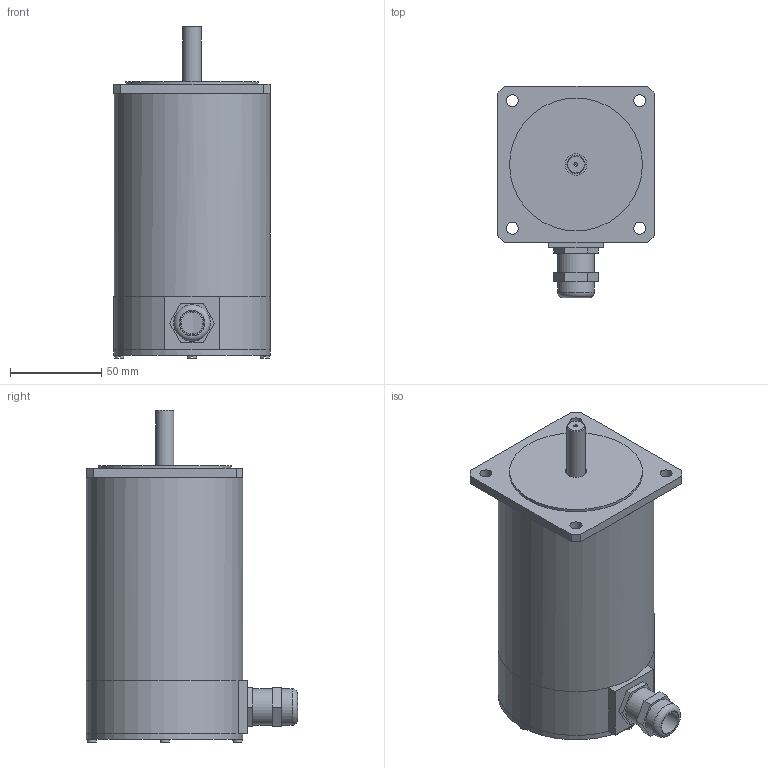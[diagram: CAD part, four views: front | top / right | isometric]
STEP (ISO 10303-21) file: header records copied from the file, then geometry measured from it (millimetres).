
FILE_DESCRIPTION((''),'2;1');
FILE_NAME('C:\Users\Reinhard\Documents\Inventor\Testschrittmotor\SM87\SM87.3-KV.stp','2012-11-14T20:34:03',('Reinhard'),(''),'Autodesk Inventor 2012','Autodesk Inventor 2012','');
FILE_SCHEMA(('CONFIG_CONTROL_DESIGN'));
Length unit declared in the file: millimetre
Products named in the file (1): SM87
Bounding box: 86 x 115.99 x 182.4 mm (x, y, z)
Volume: 158237.5 mm3; surface area: 108206 mm2
Topology: 3 solids, 3 shells, 104 faces, 237 edges, 152 vertices
Faces by surface type: plane 67, cylinder 31, cone 3, sphere 2, torus 1
Full cylindrical faces by diameter (mm): 2 x1, 5 x4, 6.62 x4, 10 x1, 12 x1, 12.001 x1, 13 x2, 15 x1, 18.376 x1, 20 x3, 73 x1, 78 x2, 82 x1, 86 x2
Entity records: 2807 total; most frequent: CARTESIAN_POINT 503, DIRECTION 485, ORIENTED_EDGE 398, EDGE_CURVE 199, AXIS2_PLACEMENT_3D 185, EDGE_LOOP 160, VERTEX_POINT 143, VECTOR 115
